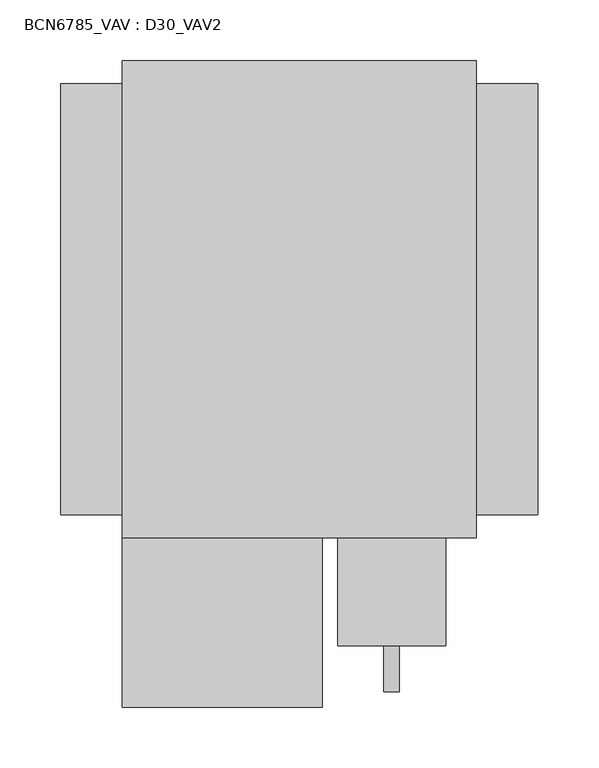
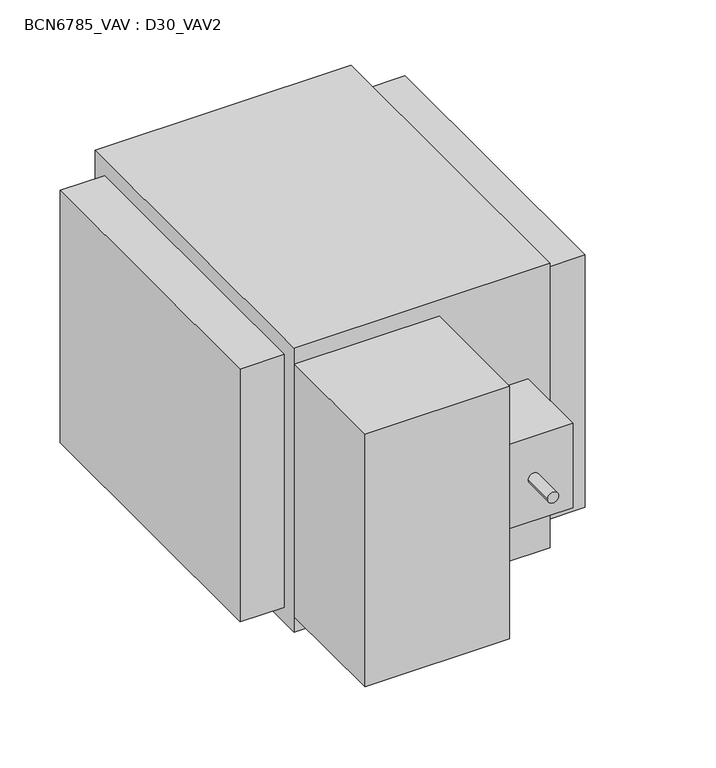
"""IFC4 building model written with IfcOpenShell, lengths in millimetres: proxy geometry, BCN6785_VAV : D30_VAV2."""

from ifc_helpers import new_model, si_unit, frame, origin, origin_with_axes, place, context, project, spatial, polyline, circle_curve, outline, extrude, faceted_brep, source, transform, mapped, element, save
from ifc_brep_helpers import plane_surface, cylinder_surface, advanced_brep


def bcn6785_vav_d30_vav2_f6575c8f(model_context):
    return source(origin(), model_context, "Body", "SolidModel", [
        extrude(outline(polyline([(292.1, 196.85), (292.1, -196.85), (0.0, -196.85), (0.0, 196.85), (292.1, 196.85)])), origin_with_axes(), (0.0, 0.0, 1.0), 342.9),
        extrude(outline(polyline([(165.1, -336.55), (0.0, -336.55), (0.0, -196.85), (165.1, -196.85), (165.1, -336.55)])), frame((0.0, 0.0, 19.05), z_axis=(0.0, 0.0, 1.0), x_axis=(1.0, 0.0, 0.0)), (0.0, 0.0, 1.0), 304.8),
        advanced_brep(
        [(266.7, -285.75, 212.725), (177.8, -285.75, 212.725), (177.8, -285.75, 111.125), (266.7, -285.75, 111.125), (228.6, -285.75, 161.925), (215.9, -285.75, 161.925), (266.7, -196.85, 212.725), (266.7, -196.85, 111.125), (177.8, -196.85, 111.125), (177.8, -196.85, 212.725), (215.9, -323.85, 161.925), (228.6, -323.85, 161.925)],
        [
            (0, 1),
            (1, 2),
            (2, 3),
            (3, 0),
            (4, 5, circle_curve(frame((222.25, -285.75, 161.925), z_axis=(0.0, 1.0, 0.0), x_axis=(1.0, 0.0, 0.0)), 6.35)),
            (5, 4, circle_curve(frame((222.25, -285.75, 161.925), z_axis=(0.0, 1.0, 0.0), x_axis=(1.0, 0.0, 0.0)), 6.35)),
            (6, 7),
            (7, 8),
            (8, 9),
            (9, 6),
            (0, 6),
            (9, 1),
            (8, 2),
            (7, 3),
            (10, 11, circle_curve(frame((222.25, -323.85, 161.925), z_axis=(0.0, -1.0, 0.0), x_axis=(1.0, 0.0, 0.0)), 6.35)),
            (11, 10, circle_curve(frame((222.25, -323.85, 161.925), z_axis=(0.0, -1.0, 0.0), x_axis=(1.0, 0.0, 0.0)), 6.35)),
            (10, 5),
            (4, 11),
        ],
        [
            plane_surface(frame((177.8, -285.75, 212.725), z_axis=(0.0, -1.0, 0.0), x_axis=(-1.0, 0.0, 0.0))),
            plane_surface(frame((177.8, -196.85, 212.725), z_axis=(0.0, 1.0, 0.0), x_axis=(1.0, 0.0, 0.0))),
            plane_surface(frame((266.7, -285.75, 212.725), z_axis=(0.0, 0.0, 1.0), x_axis=(0.0, 1.0, 0.0))),
            plane_surface(frame((177.8, -285.75, 212.725), z_axis=(-1.0, 0.0, 0.0), x_axis=(0.0, 1.0, 0.0))),
            plane_surface(frame((177.8, -285.75, 111.125), z_axis=(0.0, 0.0, -1.0), x_axis=(0.0, 1.0, 0.0))),
            plane_surface(frame((266.7, -285.75, 111.125), z_axis=(1.0, 0.0, 0.0), x_axis=(0.0, 1.0, 0.0))),
            plane_surface(frame((228.6, -323.85, 161.925), z_axis=(0.0, -1.0, 0.0), x_axis=(0.0, 0.0, 1.0))),
            cylinder_surface(frame((222.25, -196.85, 161.925), z_axis=(0.0, -1.0, 0.0), x_axis=(1.0, 0.0, 0.0)), 6.35),
        ],
        [
            (0, [[1, 2, 3, 4], [5, 6]]),
            (1, [[7, 8, 9, 10]]),
            (2, [[-1, 11, -10, 12]]),
            (3, [[-2, -12, -9, 13]]),
            (4, [[-3, -13, -8, 14]]),
            (5, [[-4, -14, -7, -11]]),
            (6, [[15, 16]]),
            (7, [[-15, 17, -5, 18]]),
            (7, [[-16, -18, -6, -17]]),
        ],
    ),
        faceted_brep([(342.9, 177.8, 323.85), (342.9, -177.8, 323.85), (342.9, -177.8, 19.05), (342.9, 177.8, 19.05), (292.1, 177.8, 323.85), (292.1, 177.8, 19.05), (292.1, -177.8, 19.05), (292.1, -177.8, 323.85)], [[[0, 1, 2, 3]], [[4, 5, 6, 7]], [[1, 0, 4, 7]], [[2, 1, 7, 6]], [[3, 2, 6, 5]], [[0, 3, 5, 4]]]),
        extrude(outline(polyline([(-50.8, -177.8), (-50.8, 177.8), (0.0, 177.8), (0.0, -177.8), (-50.8, -177.8)])), frame((0.0, 0.0, 19.05), z_axis=(0.0, 0.0, 1.0), x_axis=(1.0, 0.0, 0.0)), (0.0, 0.0, 1.0), 304.8),
    ])


if __name__ == "__main__":
    model = new_model("IFC4")
    model_context = context("Model", 3, world=origin())
    ifc_project = project(units=[si_unit("LENGTHUNIT", "METRE", prefix="MILLI")], contexts=[model_context])
    site = spatial("IfcSite", under=ifc_project)
    building = spatial("IfcBuilding", under=site)
    placement = place(None, origin())
    bcn6785_vav_d30_vav2_shape = bcn6785_vav_d30_vav2_f6575c8f(model_context)
    element("IfcBuildingElementProxy", 1, Name="BCN6785_VAV : D30_VAV2", ObjectType="BCN6785_VAV : D30_VAV2", at=placement, inside=building, context=model_context, shape_type="MappedRepresentation", body=[
        mapped(bcn6785_vav_d30_vav2_shape, transform((0.0, 0.0, 0.0), x_axis=(1.0, 0.0, 0.0), y_axis=(0.0, 1.0, 0.0), z_axis=(0.0, 0.0, 1.0))),
    ])
    save(model, "model.ifc")
